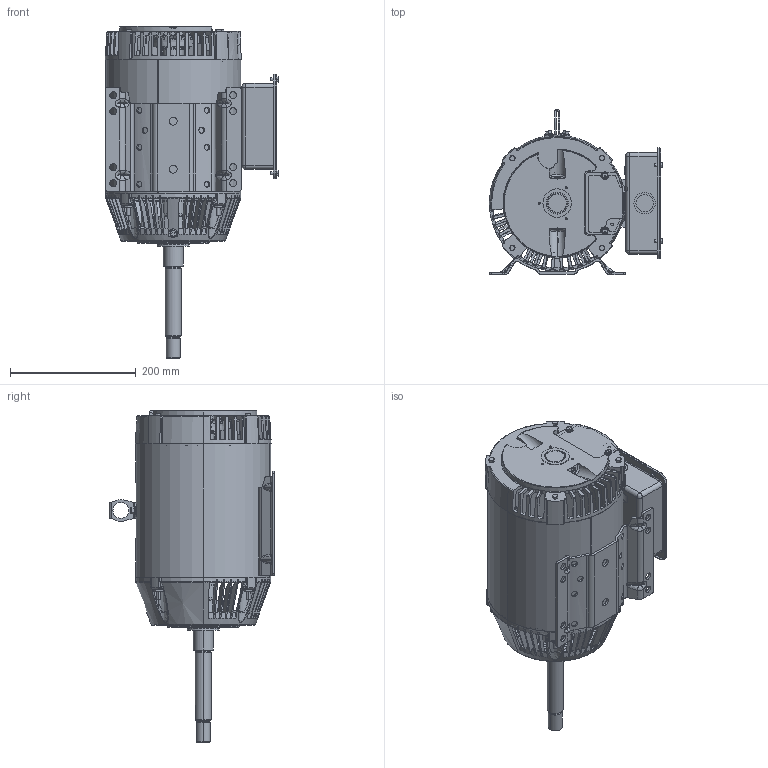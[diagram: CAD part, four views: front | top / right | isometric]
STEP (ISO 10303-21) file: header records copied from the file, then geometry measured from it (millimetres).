
FILE_DESCRIPTION (( 'STEP AP203' ), '1' );
FILE_NAME ('SS67000-825_Rev10.STEP', '2019-04-09T18:09:16', ( '' ), ( '' ), 'SwSTEP 2.0', 'SolidWorks 2015', '' );
FILE_SCHEMA (( 'CONFIG_CONTROL_DESIGN' ));
Products named in the file (1): SS67000-825_Rev10
Bounding box: 275.55 x 263.03 x 527.38 mm (x, y, z)
Volume: 1928967.3 mm3; surface area: 999710.8 mm2
Topology: 33 solids, 33 shells, 3721 faces, 9633 edges, 5896 vertices
Faces by surface type: plane 1117, cylinder 895, torus 532, cone 511, bspline 508, sphere 158
Entity records: 140495 total; most frequent: CARTESIAN_POINT 55293, ORIENTED_EDGE 18972, DIRECTION 16815, EDGE_CURVE 9486, AXIS2_PLACEMENT_3D 6919, VERTEX_POINT 5876, EDGE_LOOP 3976, ADVANCED_FACE 3721
